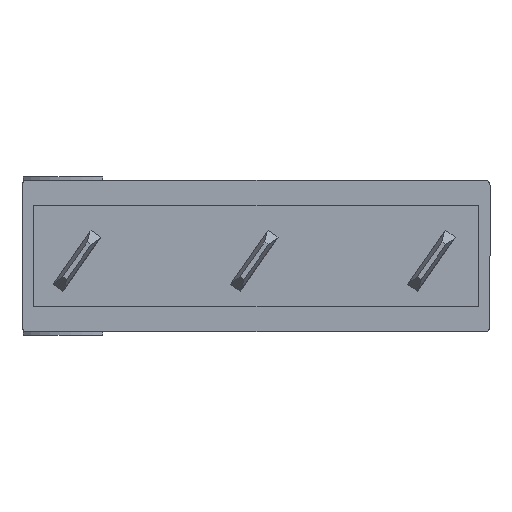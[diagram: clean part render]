
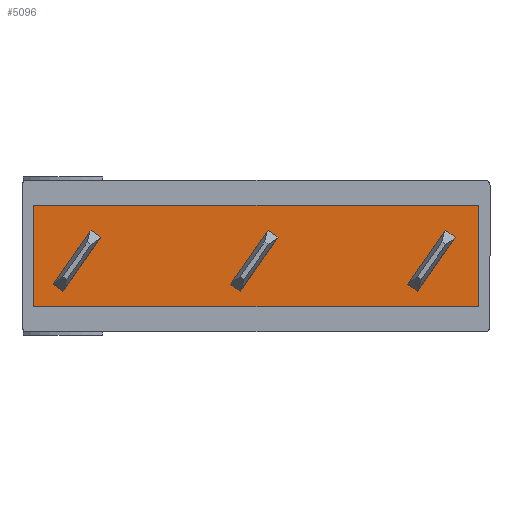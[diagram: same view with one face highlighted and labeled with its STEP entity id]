
A CAD part, front view. The second image highlights one B-rep face of the part: STEP entity #5096.
In plain terms, the highlighted planar face has unit normal (0, -1, 0).
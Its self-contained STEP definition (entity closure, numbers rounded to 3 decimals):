
#73=CARTESIAN_POINT('',(13.183,-2.1,0.803));
#74=VERTEX_POINT('',#73);
#75=CARTESIAN_POINT('',(12.773,-2.1,1.089));
#76=VERTEX_POINT('',#75);
#77=CARTESIAN_POINT('',(13.183,-2.1,0.803));
#78=DIRECTION('',(-0.819,0.0,0.574));
#79=VECTOR('',#78,0.5);
#80=LINE('',#77,#79);
#81=EDGE_CURVE('',#74,#76,#80,.T.);
#113=CARTESIAN_POINT('',(5.683,-2.1,0.803));
#114=VERTEX_POINT('',#113);
#115=CARTESIAN_POINT('',(5.273,-2.1,1.089));
#116=VERTEX_POINT('',#115);
#117=CARTESIAN_POINT('',(5.683,-2.1,0.803));
#118=DIRECTION('',(-0.819,0.0,0.574));
#119=VECTOR('',#118,0.5);
#120=LINE('',#117,#119);
#121=EDGE_CURVE('',#114,#116,#120,.T.);
#153=CARTESIAN_POINT('',(-1.817,-2.1,0.803));
#154=VERTEX_POINT('',#153);
#155=CARTESIAN_POINT('',(-2.227,-2.1,1.089));
#156=VERTEX_POINT('',#155);
#157=CARTESIAN_POINT('',(-1.817,-2.1,0.803));
#158=DIRECTION('',(-0.819,0.0,0.574));
#159=VECTOR('',#158,0.5);
#160=LINE('',#157,#159);
#161=EDGE_CURVE('',#154,#156,#160,.T.);
#193=CARTESIAN_POINT('',(11.167,-2.1,-1.204));
#194=VERTEX_POINT('',#193);
#195=CARTESIAN_POINT('',(11.576,-2.1,-1.491));
#196=VERTEX_POINT('',#195);
#197=CARTESIAN_POINT('',(11.167,-2.1,-1.204));
#198=DIRECTION('',(0.819,0.0,-0.574));
#199=VECTOR('',#198,0.5);
#200=LINE('',#197,#199);
#201=EDGE_CURVE('',#194,#196,#200,.T.);
#367=CARTESIAN_POINT('',(12.773,-2.1,1.089));
#368=DIRECTION('',(-0.574,0.,-0.819));
#369=VECTOR('',#368,2.8);
#370=LINE('',#367,#369);
#371=EDGE_CURVE('',#76,#194,#370,.T.);
#433=CARTESIAN_POINT('',(11.576,-2.1,-1.491));
#434=DIRECTION('',(0.574,0.0,0.819));
#435=VECTOR('',#434,2.8);
#436=LINE('',#433,#435);
#437=EDGE_CURVE('',#196,#74,#436,.T.);
#455=CARTESIAN_POINT('',(3.667,-2.1,-1.204));
#456=VERTEX_POINT('',#455);
#457=CARTESIAN_POINT('',(4.076,-2.1,-1.491));
#458=VERTEX_POINT('',#457);
#459=CARTESIAN_POINT('',(3.667,-2.1,-1.204));
#460=DIRECTION('',(0.819,0.0,-0.574));
#461=VECTOR('',#460,0.5);
#462=LINE('',#459,#461);
#463=EDGE_CURVE('',#456,#458,#462,.T.);
#629=CARTESIAN_POINT('',(5.273,-2.1,1.089));
#630=DIRECTION('',(-0.574,0.,-0.819));
#631=VECTOR('',#630,2.8);
#632=LINE('',#629,#631);
#633=EDGE_CURVE('',#116,#456,#632,.T.);
#695=CARTESIAN_POINT('',(4.076,-2.1,-1.491));
#696=DIRECTION('',(0.574,0.0,0.819));
#697=VECTOR('',#696,2.8);
#698=LINE('',#695,#697);
#699=EDGE_CURVE('',#458,#114,#698,.T.);
#717=CARTESIAN_POINT('',(-3.833,-2.1,-1.204));
#718=VERTEX_POINT('',#717);
#719=CARTESIAN_POINT('',(-3.424,-2.1,-1.491));
#720=VERTEX_POINT('',#719);
#721=CARTESIAN_POINT('',(-3.833,-2.1,-1.204));
#722=DIRECTION('',(0.819,0.0,-0.574));
#723=VECTOR('',#722,0.5);
#724=LINE('',#721,#723);
#725=EDGE_CURVE('',#718,#720,#724,.T.);
#891=CARTESIAN_POINT('',(-2.227,-2.1,1.089));
#892=DIRECTION('',(-0.574,0.,-0.819));
#893=VECTOR('',#892,2.8);
#894=LINE('',#891,#893);
#895=EDGE_CURVE('',#156,#718,#894,.T.);
#957=CARTESIAN_POINT('',(-3.424,-2.1,-1.491));
#958=DIRECTION('',(0.574,0.0,0.819));
#959=VECTOR('',#958,2.8);
#960=LINE('',#957,#959);
#961=EDGE_CURVE('',#720,#154,#960,.T.);
#4976=CARTESIAN_POINT('',(14.15,-2.1,2.15));
#4977=VERTEX_POINT('',#4976);
#4978=CARTESIAN_POINT('',(14.15,-2.1,-2.15));
#4979=VERTEX_POINT('',#4978);
#4980=CARTESIAN_POINT('',(14.15,-2.1,2.15));
#4981=DIRECTION('',(0.0,0.0,-1.0));
#4982=VECTOR('',#4981,4.3);
#4983=LINE('',#4980,#4982);
#4984=EDGE_CURVE('',#4977,#4979,#4983,.T.);
#5007=CARTESIAN_POINT('',(-4.65,-2.1,-2.15));
#5008=VERTEX_POINT('',#5007);
#5009=CARTESIAN_POINT('',(14.15,-2.1,-2.15));
#5010=DIRECTION('',(-1.0,0.0,0.0));
#5011=VECTOR('',#5010,18.8);
#5012=LINE('',#5009,#5011);
#5013=EDGE_CURVE('',#4979,#5008,#5012,.T.);
#5031=CARTESIAN_POINT('',(-4.65,-2.1,2.15));
#5032=VERTEX_POINT('',#5031);
#5033=CARTESIAN_POINT('',(-4.65,-2.1,-2.15));
#5034=DIRECTION('',(0.0,0.0,1.0));
#5035=VECTOR('',#5034,4.3);
#5036=LINE('',#5033,#5035);
#5037=EDGE_CURVE('',#5008,#5032,#5036,.T.);
#5055=CARTESIAN_POINT('',(-4.65,-2.1,2.15));
#5056=DIRECTION('',(1.0,0.0,0.0));
#5057=VECTOR('',#5056,18.8);
#5058=LINE('',#5055,#5057);
#5059=EDGE_CURVE('',#5032,#4977,#5058,.T.);
#5067=CARTESIAN_POINT('',(4.75,-2.1,0.));
#5068=DIRECTION('',(0.0,1.0,0.0));
#5069=DIRECTION('',(0.0,0.0,1.0));
#5070=AXIS2_PLACEMENT_3D('',#5067,#5068,#5069);
#5071=PLANE('',#5070);
#5072=ORIENTED_EDGE('',*,*,#4984,.F.);
#5073=ORIENTED_EDGE('',*,*,#5059,.F.);
#5074=ORIENTED_EDGE('',*,*,#5037,.F.);
#5075=ORIENTED_EDGE('',*,*,#5013,.F.);
#5076=EDGE_LOOP('',(#5072,#5073,#5074,#5075));
#5077=FACE_OUTER_BOUND('',#5076,.T.);
#5078=ORIENTED_EDGE('',*,*,#201,.F.);
#5079=ORIENTED_EDGE('',*,*,#371,.F.);
#5080=ORIENTED_EDGE('',*,*,#81,.F.);
#5081=ORIENTED_EDGE('',*,*,#437,.F.);
#5082=EDGE_LOOP('',(#5078,#5079,#5080,#5081));
#5083=FACE_BOUND('',#5082,.T.);
#5084=ORIENTED_EDGE('',*,*,#463,.F.);
#5085=ORIENTED_EDGE('',*,*,#633,.F.);
#5086=ORIENTED_EDGE('',*,*,#121,.F.);
#5087=ORIENTED_EDGE('',*,*,#699,.F.);
#5088=EDGE_LOOP('',(#5084,#5085,#5086,#5087));
#5089=FACE_BOUND('',#5088,.T.);
#5090=ORIENTED_EDGE('',*,*,#725,.F.);
#5091=ORIENTED_EDGE('',*,*,#895,.F.);
#5092=ORIENTED_EDGE('',*,*,#161,.F.);
#5093=ORIENTED_EDGE('',*,*,#961,.F.);
#5094=EDGE_LOOP('',(#5090,#5091,#5092,#5093));
#5095=FACE_BOUND('',#5094,.T.);
#5096=ADVANCED_FACE('',(#5077,#5083,#5089,#5095),#5071,.F.);
